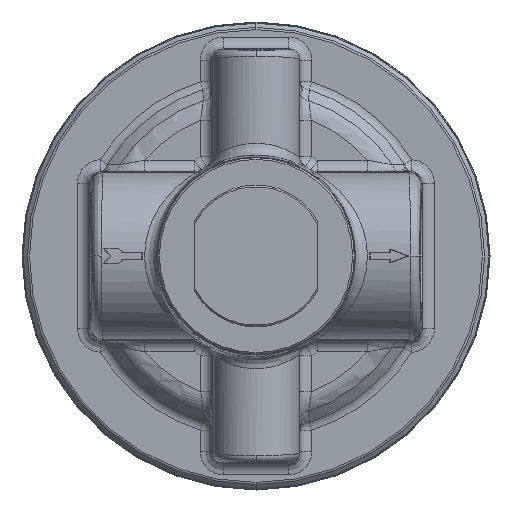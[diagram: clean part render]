
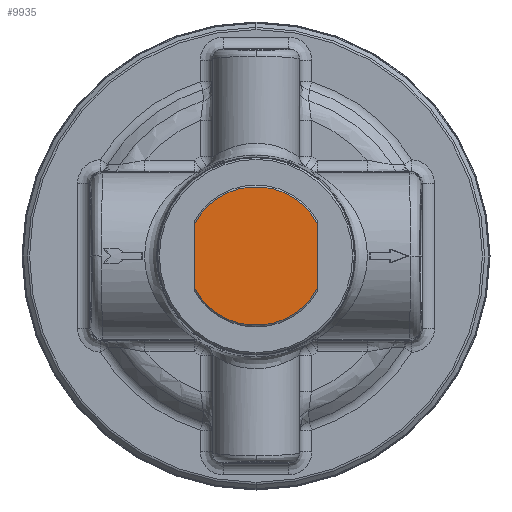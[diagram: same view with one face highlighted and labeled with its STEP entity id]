
A CAD part, front view. The second image highlights one B-rep face of the part: STEP entity #9935.
In plain terms, the highlighted planar face has unit normal (0, -1, 0).
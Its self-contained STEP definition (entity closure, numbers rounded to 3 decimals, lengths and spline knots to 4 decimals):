
#362 = VECTOR ( 'NONE', #37602, 39.3701 ) ;
#368 = VECTOR ( 'NONE', #37599, 39.3701 ) ;
#378 = CIRCLE ( 'NONE', #429, 0.6998 ) ;
#390 = AXIS2_PLACEMENT_3D ( 'NONE', #37582, #37583, #37584 ) ;
#391 = CIRCLE ( 'NONE', #390, 0.6998 ) ;
#429 = AXIS2_PLACEMENT_3D ( 'NONE', #37596, #37597, #37598 ) ;
#976 = EDGE_CURVE ( 'NONE', #3233, #3187, #391, .T. ) ;
#980 = EDGE_CURVE ( 'NONE', #3231, #3221, #378, .T. ) ;
#981 = EDGE_CURVE ( 'NONE', #3187, #3231, #37589, .T. ) ;
#982 = EDGE_CURVE ( 'NONE', #3233, #3221, #37600, .T. ) ;
#3187 = VERTEX_POINT ( 'NONE', #17323 ) ;
#3221 = VERTEX_POINT ( 'NONE', #17357 ) ;
#3231 = VERTEX_POINT ( 'NONE', #17367 ) ;
#3233 = VERTEX_POINT ( 'NONE', #17369 ) ;
#9935 = ADVANCED_FACE ( 'NONE', ( #40315 ), #40316, .F. ) ;
#17323 = CARTESIAN_POINT ( 'NONE',  ( 0.62, -2.792, -0.3244 ) ) ;
#17357 = CARTESIAN_POINT ( 'NONE',  ( -0.62, -2.792, 0.3244 ) ) ;
#17367 = CARTESIAN_POINT ( 'NONE',  ( 0.62, -2.792, 0.3244 ) ) ;
#17369 = CARTESIAN_POINT ( 'NONE',  ( -0.62, -2.792, -0.3244 ) ) ;
#28186 = ORIENTED_EDGE ( 'NONE', *, *, #981, .T. ) ;
#28187 = ORIENTED_EDGE ( 'NONE', *, *, #980, .T. ) ;
#28188 = ORIENTED_EDGE ( 'NONE', *, *, #982, .F. ) ;
#28189 = ORIENTED_EDGE ( 'NONE', *, *, #976, .T. ) ;
#32160 = AXIS2_PLACEMENT_3D ( 'NONE', #40313, #40319, #40320 ) ;
#34944 = EDGE_LOOP ( 'NONE', ( #28186, #28187, #28188, #28189 ) ) ;
#37581 = CARTESIAN_POINT ( 'NONE',  ( 0.62, -2.792, 0. ) ) ;
#37582 = CARTESIAN_POINT ( 'NONE',  ( 0., -2.792, 0. ) ) ;
#37583 = DIRECTION ( 'NONE',  ( 0., -1., 0. ) ) ;
#37584 = DIRECTION ( 'NONE',  ( 1., 0., 0. ) ) ;
#37589 = LINE ( 'NONE', #37581, #368 ) ;
#37596 = CARTESIAN_POINT ( 'NONE',  ( 0., -2.792, 0. ) ) ;
#37597 = DIRECTION ( 'NONE',  ( 0., -1., 0. ) ) ;
#37598 = DIRECTION ( 'NONE',  ( 1., 0., 0. ) ) ;
#37599 = DIRECTION ( 'NONE',  ( 0., 0., 1. ) ) ;
#37600 = LINE ( 'NONE', #37601, #362 ) ;
#37601 = CARTESIAN_POINT ( 'NONE',  ( -0.62, -2.792, 0. ) ) ;
#37602 = DIRECTION ( 'NONE',  ( 0., 0., 1. ) ) ;
#40313 = CARTESIAN_POINT ( 'NONE',  ( 0., -2.792, 0. ) ) ;
#40315 = FACE_OUTER_BOUND ( 'NONE', #34944, .T. ) ;
#40316 = PLANE ( 'NONE',  #32160 ) ;
#40319 = DIRECTION ( 'NONE',  ( 0., 1., 0. ) ) ;
#40320 = DIRECTION ( 'NONE',  ( 1., 0., 0. ) ) ;
